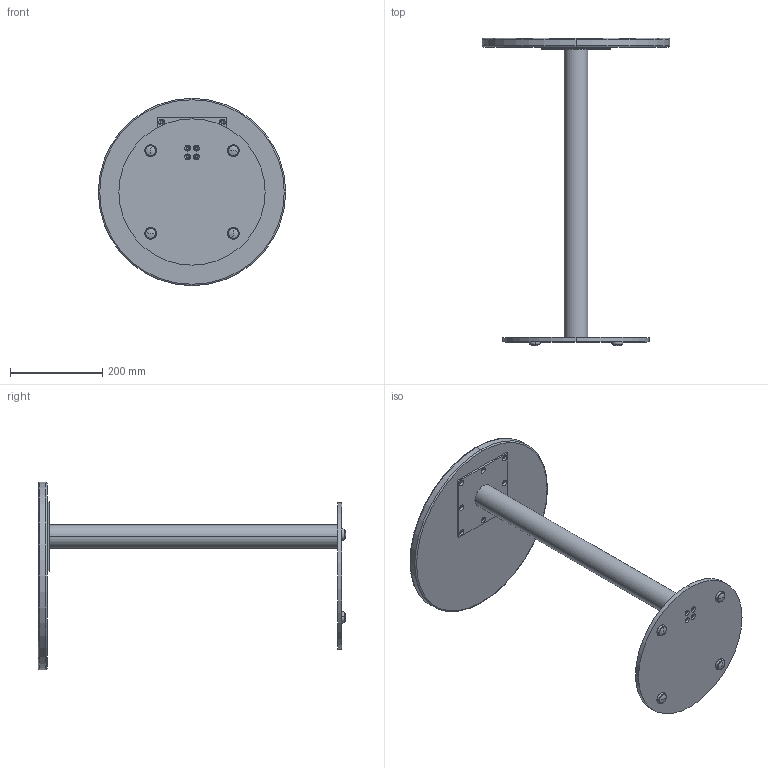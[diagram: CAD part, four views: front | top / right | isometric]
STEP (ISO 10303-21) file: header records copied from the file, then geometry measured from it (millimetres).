
FILE_DESCRIPTION (( 'STEP AP203' ), '1' );
FILE_NAME ('16 Round Long Mount-FX.STEP', '2024-10-30T12:12:13', ( '' ), ( '' ), 'SwSTEP 2.0', 'SolidWorks 2021', '' );
FILE_SCHEMA (( 'CONFIG_CONTROL_DESIGN' ));
Length unit declared in the file: inch
Products named in the file (13): 12.5 Rnd. C-Base Plate Assy.; C2.25 Column; C2.25 Column Insert Plate; 90720A520_Heavy Duty Twist-Resistant Rivet Nut_90720A520; TT-16R-Lam; 16 Round Long Mount-FX; 12.5 Round, Long Mount Plate; TT-16R; TT-16R-Core; Welded C-2.25 Col Prototype; 150mm Square Plate; ALG-SS; TT-16R-EB
Assembly tree (18 placements, depth 3):
  16 Round Long Mount-FX
    TT-16R
      TT-16R-Core
      TT-16R-Lam
      TT-16R-EB
    Welded C-2.25 Col Prototype
      150mm Square Plate
      C2.25 Column
      C2.25 Column Insert Plate
      90720A520_Heavy Duty Twist-Resistant Rivet Nut_90720A520  x4
    12.5 Rnd. C-Base Plate Assy.
      12.5 Round, Long Mount Plate
      ALG-SS  x4
Bounding box: 406.4 x 666.75 x 406.4 mm (x, y, z)
Volume: 3532288.9 mm3; surface area: 1004946.8 mm2
Topology: 19 solids, 19 shells, 553 faces, 1291 edges, 778 vertices
Faces by surface type: cylinder 225, cone 192, plane 96, bspline 20, torus 12, sphere 8
Entity records: 12093 total; most frequent: CARTESIAN_POINT 4916, DIRECTION 1235, ORIENTED_EDGE 1132, EDGE_CURVE 566, AXIS2_PLACEMENT_3D 479, VERTEX_POINT 349, EDGE_LOOP 285, LINE 277
